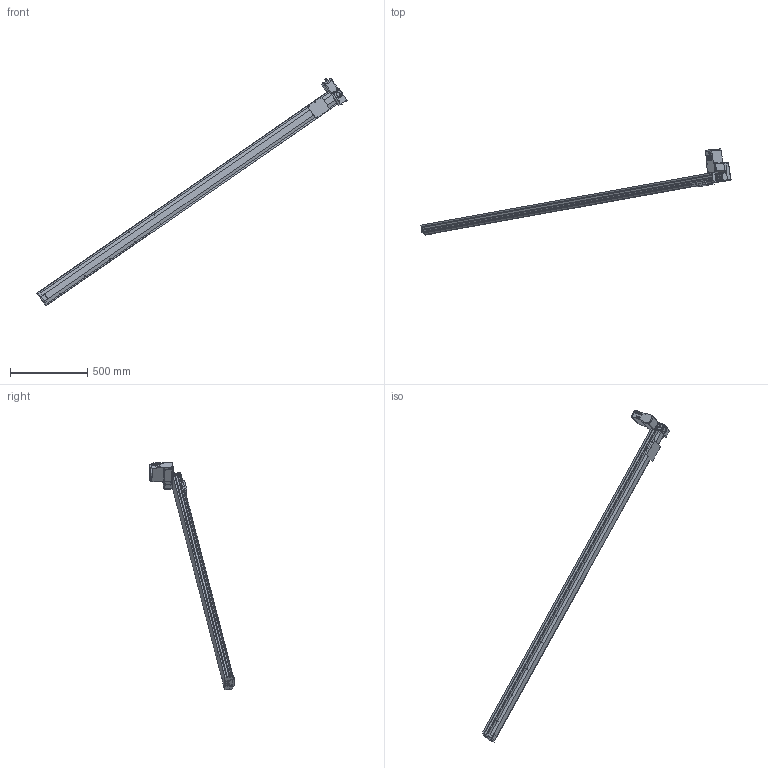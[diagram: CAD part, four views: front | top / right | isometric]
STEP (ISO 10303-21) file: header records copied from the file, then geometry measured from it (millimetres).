
FILE_DESCRIPTION (( 'STEP AP203' ), '1' );
FILE_NAME ('S10 CBH LU S2300.STEP', '2012-10-01T07:07:07', ( '' ), ( '' ), 'SwSTEP 2.0', 'SolidWorks 2010', '' );
FILE_SCHEMA (( 'CONFIG_CONTROL_DESIGN' ));
Length unit declared in the file: millimetre
Products named in the file (14): cache t皻e_Default; embout; Plaque racord_Default; vis M5 L5_Default; S10 CBH LU S2300; plaque de bout s10_Default; cache t皻e axe_Default; renvoi LH_Default; Vis M5 L16-2_Default_1; vis M5 L12_Default; Cvis M5 L30_Default; palette tbh; MOTEUR GMI 61 ; axe 2300
Assembly tree (24 placements, depth 2):
  S10 CBH LU S2300
    vis M5 L5_Default  x4
    vis M5 L12_Default  x4
    cache t皻e_Default  x2
    Cvis M5 L30_Default  x2
    Plaque racord_Default
    Vis M5 L16-2_Default_1  x4
    axe 2300
    plaque de bout s10_Default
    cache t皻e axe_Default
    embout
    MOTEUR GMI 61 
    palette tbh
    renvoi LH_Default
Bounding box: 2004.15 x 553.79 x 1471.56 mm (x, y, z)
Volume: 13080758 mm3; surface area: 1285322.2 mm2
Topology: 24 solids, 24 shells, 1101 faces, 2686 edges, 1666 vertices
Faces by surface type: plane 542, cylinder 410, cone 102, bspline 40, torus 7
Entity records: 27883 total; most frequent: CARTESIAN_POINT 5224, DIRECTION 4481, ORIENTED_EDGE 4188, EDGE_CURVE 2094, AXIS2_PLACEMENT_3D 1597, VERTEX_POINT 1354, VECTOR 1287, LINE 1287
